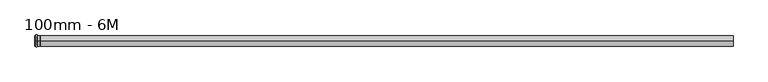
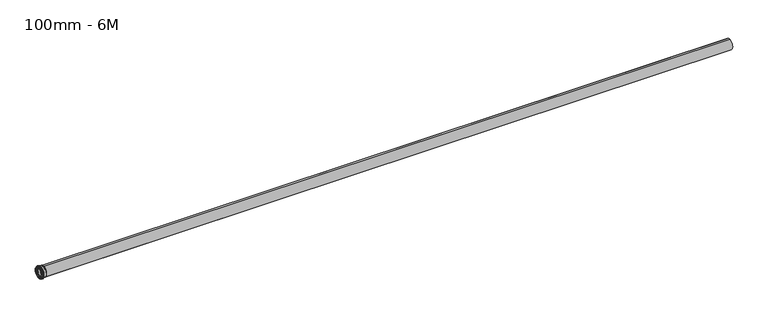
"""IFC4 building model written with IfcOpenShell, lengths in millimetres: pipe fitting geometry, Krona Esgoto Tubo Esg. 100mm - 6M_0103 : 100mm - 6M."""

from ifc_helpers import new_model, si_unit, point, frame, origin, place, context, project, spatial, polyline, circle_curve, ellipse_curve, trimmed, source, transform, mapped, element, save
from ifc_brep_helpers import plane_surface, cylinder_surface, revolved_surface, advanced_brep


def pipe_fitting_100mm_6m_63907a32(model_context):
    return source(origin(), model_context, "Body", "AdvancedBrep", [
        advanced_brep(
        [(0.0, 0.0, -50.0), (0.0, 0.0, 50.0), (0.0, 0.0, 51.2), (0.0, 0.0, -51.2), (8.8697559, 0.0, -50.0), (8.8697559, 0.0, 50.0), (9.8356817, 0.0, -50.741181), (9.8356817, 0.0, 50.741181), (11.239105, 0.0, -55.9788281), (11.239105, 0.0, 55.9788281), (11.8186605, 0.0, -56.4235367), (11.8186605, 0.0, 56.4235367), (19.1642025, 0.0, -56.4235367), (19.1642025, 0.0, 56.4235367), (19.743758, 0.0, -55.9788281), (19.743758, 0.0, 55.9788281), (21.1471814, 0.0, -50.741181), (21.1471814, 0.0, 50.741181), (22.1131072, 0.0, -50.0), (22.1131072, 0.0, 50.0), (45.7051464, 0.0, -50.0), (45.7051464, 0.0, 50.0), (22.7075118, 0.0, -51.7), (22.7075118, 0.0, 51.7), (45.7051464, 0.0, 51.7), (45.7051464, 0.0, -51.7), (22.109795, 0.0, -52.2477066), (22.109795, 0.0, 52.2477066), (21.7712935, 0.0, -57.1383491), (21.7712935, 0.0, 57.1383491), (20.7592245, 0.0, -57.8235367), (20.7592245, 0.0, 57.8235367), (10.2225407, 0.0, -57.8235367), (10.2225407, 0.0, 57.8235367), (9.2263461, 0.0, -56.9106924), (9.2263461, 0.0, 56.9106924), (8.8183876, 0.0, -52.2477066), (8.8183876, 0.0, 52.2477066), (8.2206708, 0.0, -51.7), (8.2206708, 0.0, 51.7), (0.5, 0.0, -51.7), (0.5, 0.0, 51.7), (6683.3883604, 0.0, -48.3), (6683.3883604, 0.0, 48.3), (54.0, 0.0, 48.3), (54.0, 0.0, -48.3), (6683.3883604, 0.0, -50.0), (6683.3883604, 0.0, 50.0), (54.0, 0.0, -50.0), (54.0, 0.0, 50.0)],
        [
            (0, 1, circle_curve(frame((0.0, 0.0, 0.0), z_axis=(1.0, 0.0, 0.0), x_axis=(0.0, 0.0, 1.0)), 50.0)),
            (1, 2),
            (2, 3, circle_curve(frame((0.0, 0.0, 0.0), z_axis=(-1.0, 0.0, 0.0), x_axis=(0.0, 0.0, 1.0)), 51.2)),
            (3, 0),
            (1, 0, circle_curve(frame((0.0, 0.0, 0.0), z_axis=(1.0, 0.0, 0.0), x_axis=(0.0, 0.0, 1.0)), 50.0)),
            (3, 2, circle_curve(frame((0.0, 0.0, 0.0), z_axis=(-1.0, 0.0, 0.0), x_axis=(0.0, 0.0, 1.0)), 51.2)),
            (4, 5, circle_curve(frame((8.8697559, 0.0, 0.0), z_axis=(1.0, 0.0, 0.0), x_axis=(0.0, 0.0, 1.0)), 50.0)),
            (5, 1),
            (0, 4),
            (5, 4, circle_curve(frame((8.8697559, 0.0, 0.0), z_axis=(1.0, 0.0, 0.0), x_axis=(0.0, 0.0, 1.0)), 50.0)),
            (6, 7, circle_curve(frame((9.8356817, 0.0, 0.0), z_axis=(1.0, 0.0, 0.0), x_axis=(0.0, 0.0, 1.0)), 50.741181)),
            (7, 5, circle_curve(frame((8.8697559, 0.0, 51.0), z_axis=(0.0, 1.0, 0.0), x_axis=(1.0, 0.0, 0.0)), 1.0)),
            (4, 6, circle_curve(frame((8.8697559, 0.0, -51.0), z_axis=(0.0, 1.0, 0.0), x_axis=(1.0, 0.0, 0.0)), 1.0)),
            (7, 6, circle_curve(frame((9.8356817, 0.0, 0.0), z_axis=(1.0, 0.0, 0.0), x_axis=(0.0, 0.0, 1.0)), 50.741181)),
            (8, 9, circle_curve(frame((11.239105, 0.0, 0.0), z_axis=(1.0, 0.0, 0.0), x_axis=(0.0, 0.0, 1.0)), 55.9788281)),
            (9, 7),
            (6, 8),
            (9, 8, circle_curve(frame((11.239105, 0.0, 0.0), z_axis=(1.0, 0.0, 0.0), x_axis=(0.0, 0.0, 1.0)), 55.9788281)),
            (10, 11, circle_curve(frame((11.8186605, 0.0, 0.0), z_axis=(1.0, 0.0, 0.0), x_axis=(0.0, 0.0, 1.0)), 56.4235367)),
            (11, 9, circle_curve(frame((11.8186605, 0.0, 55.8235367), z_axis=(0.0, -1.0, 0.0), x_axis=(1.0, 0.0, 0.0)), 0.6)),
            (8, 10, circle_curve(frame((11.8186605, 0.0, -55.8235367), z_axis=(0.0, -1.0, 0.0), x_axis=(1.0, 0.0, 0.0)), 0.6)),
            (11, 10, circle_curve(frame((11.8186605, 0.0, 0.0), z_axis=(1.0, 0.0, 0.0), x_axis=(0.0, 0.0, 1.0)), 56.4235367)),
            (12, 13, circle_curve(frame((19.1642025, 0.0, 0.0), z_axis=(1.0, 0.0, 0.0), x_axis=(0.0, 0.0, 1.0)), 56.4235367)),
            (13, 11),
            (10, 12),
            (13, 12, circle_curve(frame((19.1642025, 0.0, 0.0), z_axis=(1.0, 0.0, 0.0), x_axis=(0.0, 0.0, 1.0)), 56.4235367)),
            (14, 15, circle_curve(frame((19.743758, 0.0, 0.0), z_axis=(1.0, 0.0, 0.0), x_axis=(0.0, 0.0, 1.0)), 55.9788281)),
            (15, 13, circle_curve(frame((19.1642025, 0.0, 55.8235367), z_axis=(0.0, -1.0, 0.0), x_axis=(1.0, 0.0, 0.0)), 0.6)),
            (12, 14, circle_curve(frame((19.1642025, 0.0, -55.8235367), z_axis=(0.0, -1.0, 0.0), x_axis=(1.0, 0.0, 0.0)), 0.6)),
            (15, 14, circle_curve(frame((19.743758, 0.0, 0.0), z_axis=(1.0, 0.0, 0.0), x_axis=(0.0, 0.0, 1.0)), 55.9788281)),
            (16, 17, circle_curve(frame((21.1471814, 0.0, 0.0), z_axis=(1.0, 0.0, 0.0), x_axis=(0.0, 0.0, 1.0)), 50.741181)),
            (17, 15),
            (14, 16),
            (17, 16, circle_curve(frame((21.1471814, 0.0, 0.0), z_axis=(1.0, 0.0, 0.0), x_axis=(0.0, 0.0, 1.0)), 50.741181)),
            (18, 19, circle_curve(frame((22.1131072, 0.0, 0.0), z_axis=(1.0, 0.0, 0.0), x_axis=(0.0, 0.0, 1.0)), 50.0)),
            (19, 17, circle_curve(frame((22.1131072, 0.0, 51.0), z_axis=(0.0, 1.0, 0.0), x_axis=(1.0, 0.0, 0.0)), 1.0)),
            (16, 18, circle_curve(frame((22.1131072, 0.0, -51.0), z_axis=(0.0, 1.0, 0.0), x_axis=(1.0, 0.0, 0.0)), 1.0)),
            (19, 18, circle_curve(frame((22.1131072, 0.0, 0.0), z_axis=(1.0, 0.0, 0.0), x_axis=(0.0, 0.0, 1.0)), 50.0)),
            (20, 21, circle_curve(frame((45.7051464, 0.0, 0.0), z_axis=(1.0, 0.0, 0.0), x_axis=(0.0, 0.0, 1.0)), 50.0)),
            (21, 19),
            (18, 20),
            (21, 20, circle_curve(frame((45.7051464, 0.0, 0.0), z_axis=(1.0, 0.0, 0.0), x_axis=(0.0, 0.0, 1.0)), 50.0)),
            (22, 23, circle_curve(frame((22.7075118, 0.0, 0.0), z_axis=(1.0, 0.0, 0.0), x_axis=(0.0, 0.0, 1.0)), 51.7)),
            (23, 24),
            (24, 25, circle_curve(frame((45.7051464, 0.0, 0.0), z_axis=(-1.0, 0.0, 0.0), x_axis=(0.0, 0.0, 1.0)), 51.7)),
            (25, 22),
            (23, 22, circle_curve(frame((22.7075118, 0.0, 0.0), z_axis=(1.0, 0.0, 0.0), x_axis=(0.0, 0.0, 1.0)), 51.7)),
            (25, 24, circle_curve(frame((45.7051464, 0.0, 0.0), z_axis=(-1.0, 0.0, 0.0), x_axis=(0.0, 0.0, 1.0)), 51.7)),
            (26, 27, circle_curve(frame((22.109795, 0.0, 0.0), z_axis=(1.0, 0.0, 0.0), x_axis=(0.0, 0.0, 1.0)), 52.2477066)),
            (27, 23, circle_curve(frame((22.7075118, 0.0, 52.3), z_axis=(0.0, -1.0, 0.0), x_axis=(1.0, 0.0, 0.0)), 0.6)),
            (22, 26, circle_curve(frame((22.7075118, 0.0, -52.3), z_axis=(0.0, -1.0, 0.0), x_axis=(1.0, 0.0, 0.0)), 0.6)),
            (27, 26, circle_curve(frame((22.109795, 0.0, 0.0), z_axis=(1.0, 0.0, 0.0), x_axis=(0.0, 0.0, 1.0)), 52.2477066)),
            (28, 29, circle_curve(frame((21.7712935, 0.0, 0.0), z_axis=(1.0, 0.0, 0.0), x_axis=(0.0, 0.0, 1.0)), 57.1383491)),
            (29, 27),
            (26, 28),
            (29, 28, circle_curve(frame((21.7712935, 0.0, 0.0), z_axis=(1.0, 0.0, 0.0), x_axis=(0.0, 0.0, 1.0)), 57.1383491)),
            (30, 31, circle_curve(frame((20.7592245, 0.0, 0.0), z_axis=(1.0, 0.0, 0.0), x_axis=(0.0, 0.0, 1.0)), 57.8235367)),
            (31, 29, circle_curve(frame((20.7592245, 0.0, 56.7334953), z_axis=(0.0, 1.0, 0.0), x_axis=(1.0, 0.0, 0.0)), 1.0900414)),
            (28, 30, circle_curve(frame((20.7592245, 0.0, -56.7334953), z_axis=(0.0, 1.0, 0.0), x_axis=(1.0, 0.0, 0.0)), 1.0900414)),
            (31, 30, circle_curve(frame((20.7592245, 0.0, 0.0), z_axis=(1.0, 0.0, 0.0), x_axis=(0.0, 0.0, 1.0)), 57.8235367)),
            (32, 33, circle_curve(frame((10.2225407, 0.0, 0.0), z_axis=(1.0, 0.0, 0.0), x_axis=(0.0, 0.0, 1.0)), 57.8235367)),
            (33, 31),
            (30, 32),
            (33, 32, circle_curve(frame((10.2225407, 0.0, 0.0), z_axis=(1.0, 0.0, 0.0), x_axis=(0.0, 0.0, 1.0)), 57.8235367)),
            (34, 35, circle_curve(frame((9.2263461, 0.0, 0.0), z_axis=(1.0, 0.0, 0.0), x_axis=(0.0, 0.0, 1.0)), 56.9106924)),
            (35, 33, circle_curve(frame((10.2225407, 0.0, 56.8235367), z_axis=(0.0, 1.0, 0.0), x_axis=(1.0, 0.0, 0.0)), 1.0)),
            (32, 34, circle_curve(frame((10.2225407, 0.0, -56.8235367), z_axis=(0.0, 1.0, 0.0), x_axis=(1.0, 0.0, 0.0)), 1.0)),
            (35, 34, circle_curve(frame((9.2263461, 0.0, 0.0), z_axis=(1.0, 0.0, 0.0), x_axis=(0.0, 0.0, 1.0)), 56.9106924)),
            (36, 37, circle_curve(frame((8.8183876, 0.0, 0.0), z_axis=(1.0, 0.0, 0.0), x_axis=(0.0, 0.0, 1.0)), 52.2477066)),
            (37, 35),
            (34, 36),
            (37, 36, circle_curve(frame((8.8183876, 0.0, 0.0), z_axis=(1.0, 0.0, 0.0), x_axis=(0.0, 0.0, 1.0)), 52.2477066)),
            (38, 39, circle_curve(frame((8.2206708, 0.0, 0.0), z_axis=(1.0, 0.0, 0.0), x_axis=(0.0, 0.0, 1.0)), 51.7)),
            (39, 37, circle_curve(frame((8.2206708, 0.0, 52.3), z_axis=(0.0, -1.0, 0.0), x_axis=(1.0, 0.0, 0.0)), 0.6)),
            (36, 38, circle_curve(frame((8.2206708, 0.0, -52.3), z_axis=(0.0, -1.0, 0.0), x_axis=(1.0, 0.0, 0.0)), 0.6)),
            (39, 38, circle_curve(frame((8.2206708, 0.0, 0.0), z_axis=(1.0, 0.0, 0.0), x_axis=(0.0, 0.0, 1.0)), 51.7)),
            (40, 41, circle_curve(frame((0.5, 0.0, 0.0), z_axis=(1.0, 0.0, 0.0), x_axis=(0.0, 0.0, 1.0)), 51.7)),
            (41, 39),
            (38, 40),
            (41, 40, circle_curve(frame((0.5, 0.0, 0.0), z_axis=(1.0, 0.0, 0.0), x_axis=(0.0, 0.0, 1.0)), 51.7)),
            (2, 41, circle_curve(frame((0.5, 0.0, 51.2), z_axis=(0.0, 1.0, 0.0), x_axis=(1.0, 0.0, 0.0)), 0.5)),
            (40, 3, circle_curve(frame((0.5, 0.0, -51.2), z_axis=(0.0, 1.0, 0.0), x_axis=(1.0, 0.0, 0.0)), 0.5)),
            (42, 43, circle_curve(frame((6683.3883604, 0.0, 0.0), z_axis=(1.0, 0.0, 0.0), x_axis=(0.0, 0.0, 1.0)), 48.3)),
            (43, 44),
            (44, 45, circle_curve(frame((54.0, 0.0, 0.0), z_axis=(-1.0, 0.0, 0.0), x_axis=(0.0, 0.0, 1.0)), 48.3)),
            (45, 42),
            (43, 42, circle_curve(frame((6683.3883604, 0.0, 0.0), z_axis=(1.0, 0.0, 0.0), x_axis=(0.0, 0.0, 1.0)), 48.3)),
            (45, 44, circle_curve(frame((54.0, 0.0, 0.0), z_axis=(-1.0, 0.0, 0.0), x_axis=(0.0, 0.0, 1.0)), 48.3)),
            (46, 47, circle_curve(frame((6683.3883604, 0.0, 0.0), z_axis=(1.0, 0.0, 0.0), x_axis=(0.0, 0.0, 1.0)), 50.0)),
            (47, 43),
            (42, 46),
            (47, 46, circle_curve(frame((6683.3883604, 0.0, 0.0), z_axis=(1.0, 0.0, 0.0), x_axis=(0.0, 0.0, 1.0)), 50.0)),
            (48, 49, circle_curve(frame((54.0, 0.0, 0.0), z_axis=(1.0, 0.0, 0.0), x_axis=(0.0, 0.0, 1.0)), 50.0)),
            (49, 47),
            (46, 48),
            (49, 48, circle_curve(frame((54.0, 0.0, 0.0), z_axis=(1.0, 0.0, 0.0), x_axis=(0.0, 0.0, 1.0)), 50.0)),
            (44, 21),
            (20, 45),
            (24, 49),
            (48, 25),
        ],
        [
            plane_surface(frame((0.0, 0.0, 0.0), z_axis=(-1.0, 0.0, 0.0), x_axis=(0.0, 0.0, 1.0))),
            revolved_surface(polyline([(0.0, 0.0, 50.0), (8.869755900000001, 0.0, 50.0)]), (-92.1539949, 0.0, 0.0), (-1.0, 0.0, 0.0)),
            revolved_surface(trimmed(ellipse_curve(frame((8.8697559, 0.0, 51.0), z_axis=(0.0, -1.0, 0.0), x_axis=(1.0, 0.0, 0.0)), 1.0, 1.0), [point((8.8697559, 0.0, 50.0))], [point((9.8356817, 0.0, 50.741181))], True, "CARTESIAN"), (-92.1539949, 0.0, 0.0), (-1.0, 0.0, 0.0)),
            revolved_surface(polyline([(9.8356817, 0.0, 50.741181), (11.239105, 0.0, 55.9788281)]), (-92.1539949, 0.0, 0.0), (-1.0, 0.0, 0.0)),
            revolved_surface(trimmed(ellipse_curve(frame((11.8186605, 0.0, 55.8235367), z_axis=(0.0, 1.0, 0.0), x_axis=(1.0, 0.0, 0.0)), 0.6, 0.6), [point((11.239105, 0.0, 55.9788281))], [point((11.8186605, 0.0, 56.4235367))], True, "CARTESIAN"), (-92.1539949, 0.0, 0.0), (-1.0, 0.0, 0.0)),
            revolved_surface(polyline([(11.818660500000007, 0.0, 56.4235367), (19.164202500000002, 0.0, 56.4235367)]), (-92.1539949, 0.0, 0.0), (-1.0, 0.0, 0.0)),
            revolved_surface(trimmed(ellipse_curve(frame((19.1642025, 0.0, 55.8235367), z_axis=(0.0, 1.0, 0.0), x_axis=(1.0, 0.0, 0.0)), 0.6, 0.6), [point((19.1642025, 0.0, 56.4235367))], [point((19.743758, 0.0, 55.9788281))], True, "CARTESIAN"), (-92.1539949, 0.0, 0.0), (-1.0, 0.0, 0.0)),
            revolved_surface(polyline([(19.743758, 0.0, 55.9788281), (21.1471814, 0.0, 50.741181)]), (-92.1539949, 0.0, 0.0), (-1.0, 0.0, 0.0)),
            revolved_surface(trimmed(ellipse_curve(frame((22.1131072, 0.0, 51.0), z_axis=(0.0, -1.0, 0.0), x_axis=(1.0, 0.0, 0.0)), 1.0, 1.0), [point((21.1471814, 0.0, 50.741181))], [point((22.1131072, 0.0, 50.0))], True, "CARTESIAN"), (-92.1539949, 0.0, 0.0), (-1.0, 0.0, 0.0)),
            revolved_surface(polyline([(22.1131072, 0.0, 50.0), (45.705146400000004, 0.0, 50.0)]), (-92.1539949, 0.0, 0.0), (-1.0, 0.0, 0.0)),
            cylinder_surface(frame((-92.1539949, 0.0, 0.0), z_axis=(-1.0, 0.0, 0.0), x_axis=(0.0, 0.0, 1.0)), 51.7),
            revolved_surface(trimmed(ellipse_curve(frame((22.7075118, 0.0, 52.3), z_axis=(0.0, 1.0, 0.0), x_axis=(1.0, 0.0, 0.0)), 0.6, 0.6), [point((22.7075118, 0.0, 51.7))], [point((22.109795, 0.0, 52.2477066))], True, "CARTESIAN"), (-92.1539949, 0.0, 0.0), (-1.0, 0.0, 0.0)),
            revolved_surface(polyline([(22.109795, 0.0, 52.2477066), (21.7712935, 0.0, 57.1383491)]), (-92.1539949, 0.0, 0.0), (-1.0, 0.0, 0.0)),
            revolved_surface(trimmed(ellipse_curve(frame((20.7592245, 0.0, 56.7334953), z_axis=(0.0, -1.0, 0.0), x_axis=(1.0, 0.0, 0.0)), 1.0900414, 1.0900414), [point((21.7712935, 0.0, 57.1383491))], [point((20.7592245, 0.0, 57.8235367))], True, "CARTESIAN"), (-92.1539949, 0.0, 0.0), (-1.0, 0.0, 0.0)),
            cylinder_surface(frame((-92.1539949, 0.0, 0.0), z_axis=(-1.0, 0.0, 0.0), x_axis=(0.0, 0.0, 1.0)), 57.8235367),
            revolved_surface(trimmed(ellipse_curve(frame((10.2225407, 0.0, 56.8235367), z_axis=(0.0, -1.0, 0.0), x_axis=(1.0, 0.0, 0.0)), 1.0, 1.0), [point((10.2225407, 0.0, 57.8235367))], [point((9.2263461, 0.0, 56.9106924))], True, "CARTESIAN"), (-92.1539949, 0.0, 0.0), (-1.0, 0.0, 0.0)),
            revolved_surface(polyline([(9.2263461, 0.0, 56.9106924), (8.8183876, 0.0, 52.2477066)]), (-92.1539949, 0.0, 0.0), (-1.0, 0.0, 0.0)),
            revolved_surface(trimmed(ellipse_curve(frame((8.2206708, 0.0, 52.3), z_axis=(0.0, 1.0, 0.0), x_axis=(1.0, 0.0, 0.0)), 0.6, 0.6), [point((8.8183876, 0.0, 52.2477066))], [point((8.2206708, 0.0, 51.7))], True, "CARTESIAN"), (-92.1539949, 0.0, 0.0), (-1.0, 0.0, 0.0)),
            revolved_surface(trimmed(ellipse_curve(frame((0.5, 0.0, 51.2), z_axis=(0.0, -1.0, 0.0), x_axis=(1.0, 0.0, 0.0)), 0.5, 0.5), [point((0.5, 0.0, 51.7))], [point((0.0, 0.0, 51.2))], True, "CARTESIAN"), (-92.1539949, 0.0, 0.0), (-1.0, 0.0, 0.0)),
            revolved_surface(polyline([(53.999999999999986, 0.0, 48.3), (6683.3883604, 0.0, 48.3)]), (-92.1539949, 0.0, 0.0), (-1.0, 0.0, 0.0)),
            plane_surface(frame((6683.3883604, 0.0, 0.0), z_axis=(1.0, 0.0, 0.0), x_axis=(0.0, 0.0, 1.0))),
            cylinder_surface(frame((-92.1539949, 0.0, 0.0), z_axis=(-1.0, 0.0, 0.0), x_axis=(0.0, 0.0, 1.0)), 50.0),
            revolved_surface(polyline([(45.7051464, 0.0, 50.0), (54.0, 0.0, 48.3)]), (-92.1539949, 0.0, 0.0), (-1.0, 0.0, 0.0)),
            revolved_surface(polyline([(54.0, 0.0, 50.0), (45.7051464, 0.0, 51.7)]), (-92.1539949, 0.0, 0.0), (-1.0, 0.0, 0.0)),
        ],
        [
            (0, [[1, 2, 3, 4]]),
            (0, [[5, -4, 6, -2]]),
            (1, [[7, 8, -1, 9]]),
            (1, [[10, -9, -5, -8]]),
            (2, [[11, 12, -7, 13]]),
            (2, [[14, -13, -10, -12]]),
            (3, [[15, 16, -11, 17]]),
            (3, [[18, -17, -14, -16]]),
            (4, [[19, 20, -15, 21]]),
            (4, [[22, -21, -18, -20]]),
            (5, [[23, 24, -19, 25]]),
            (5, [[26, -25, -22, -24]]),
            (6, [[27, 28, -23, 29]]),
            (6, [[30, -29, -26, -28]]),
            (7, [[31, 32, -27, 33]]),
            (7, [[34, -33, -30, -32]]),
            (8, [[35, 36, -31, 37]]),
            (8, [[38, -37, -34, -36]]),
            (9, [[39, 40, -35, 41]]),
            (9, [[42, -41, -38, -40]]),
            (10, [[43, 44, 45, 46]]),
            (10, [[47, -46, 48, -44]]),
            (11, [[49, 50, -43, 51]]),
            (11, [[52, -51, -47, -50]]),
            (12, [[53, 54, -49, 55]]),
            (12, [[56, -55, -52, -54]]),
            (13, [[57, 58, -53, 59]]),
            (13, [[60, -59, -56, -58]]),
            (14, [[61, 62, -57, 63]]),
            (14, [[64, -63, -60, -62]]),
            (15, [[65, 66, -61, 67]]),
            (15, [[68, -67, -64, -66]]),
            (16, [[69, 70, -65, 71]]),
            (16, [[72, -71, -68, -70]]),
            (17, [[73, 74, -69, 75]]),
            (17, [[76, -75, -72, -74]]),
            (10, [[77, 78, -73, 79]]),
            (10, [[80, -79, -76, -78]]),
            (18, [[-3, 81, -77, 82]]),
            (18, [[-6, -82, -80, -81]]),
            (19, [[83, 84, 85, 86]]),
            (19, [[87, -86, 88, -84]]),
            (20, [[89, 90, -83, 91]]),
            (20, [[92, -91, -87, -90]]),
            (21, [[93, 94, -89, 95]]),
            (21, [[96, -95, -92, -94]]),
            (22, [[-85, 97, -39, 98]]),
            (22, [[-88, -98, -42, -97]]),
            (23, [[-45, 99, -93, 100]]),
            (23, [[-48, -100, -96, -99]]),
        ],
    ),
    ])


if __name__ == "__main__":
    model = new_model("IFC4")
    model_context = context("Model", 3, world=origin())
    ifc_project = project(units=[si_unit("LENGTHUNIT", "METRE", prefix="MILLI")], contexts=[model_context])
    site = spatial("IfcSite", under=ifc_project)
    building = spatial("IfcBuilding", under=site)
    placement = place(None, origin())
    pipe_fitting_100mm_6m_shape = pipe_fitting_100mm_6m_63907a32(model_context)
    element("IfcPipeFitting", 1, ObjectType="Krona Esgoto Tubo Esg. 100mm - 6M_0103 : 100mm - 6M", at=placement, inside=building, context=model_context, shape_type="MappedRepresentation", body=[
        mapped(pipe_fitting_100mm_6m_shape, transform((0.0, 0.0, 0.0), x_axis=(1.0, 0.0, 0.0), y_axis=(0.0, 1.0, 0.0), z_axis=(0.0, 0.0, 1.0))),
    ])
    save(model, "model.ifc")
